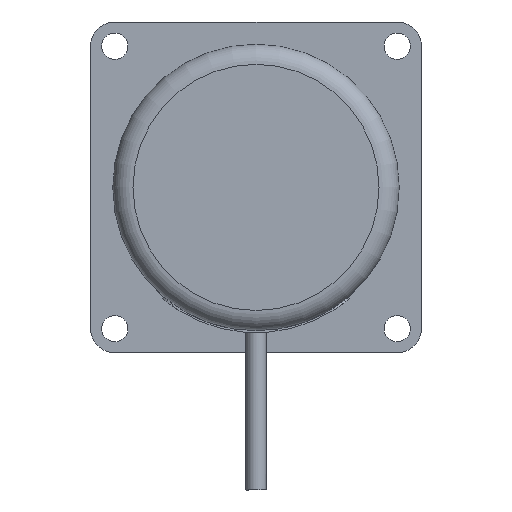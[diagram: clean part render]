
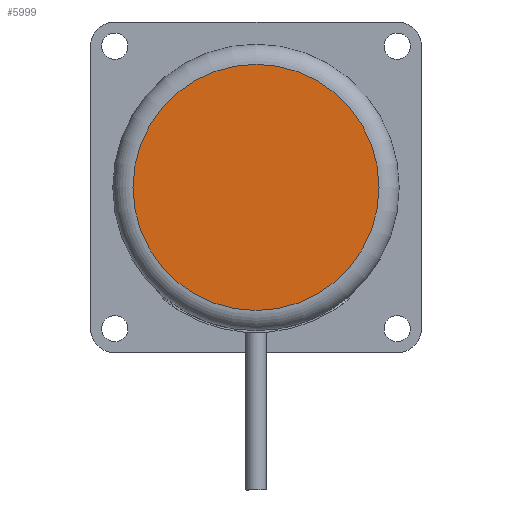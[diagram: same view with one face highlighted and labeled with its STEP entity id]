
A CAD part, left-side view. The second image highlights one B-rep face of the part: STEP entity #5999.
In plain terms, the highlighted planar face has unit normal (-1, 0, 0).
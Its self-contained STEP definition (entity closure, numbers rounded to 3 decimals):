
#824 = DIRECTION ( 'NONE',  ( 0., 0., 1. ) ) ;
#847 = DIRECTION ( 'NONE',  ( -1., 0., 0. ) ) ;
#872 = CARTESIAN_POINT ( 'NONE',  ( -62., 0., 0. ) ) ;
#2656 = ORIENTED_EDGE ( 'NONE', *, *, #5607, .T. ) ;
#2826 = AXIS2_PLACEMENT_3D ( 'NONE', #4787, #4828, #6417 ) ;
#3223 = AXIS2_PLACEMENT_3D ( 'NONE', #872, #847, #824 ) ;
#3792 = VERTEX_POINT ( 'NONE', #6668 ) ;
#4588 = EDGE_LOOP ( 'NONE', ( #2656 ) ) ;
#4787 = CARTESIAN_POINT ( 'NONE',  ( -62., 0., 0. ) ) ;
#4828 = DIRECTION ( 'NONE',  ( -1., 0., 0. ) ) ;
#5332 = PLANE ( 'NONE',  #2826 ) ;
#5465 = FACE_OUTER_BOUND ( 'NONE', #4588, .T. ) ;
#5607 = EDGE_CURVE ( 'NONE', #3792, #3792, #5766, .T. ) ;
#5766 = CIRCLE ( 'NONE', #3223, 30.5 ) ;
#5999 = ADVANCED_FACE ( 'NONE', ( #5465 ), #5332, .T. ) ;
#6417 = DIRECTION ( 'NONE',  ( 0., 0., 1. ) ) ;
#6668 = CARTESIAN_POINT ( 'NONE',  ( -62., 0., 30.5 ) ) ;
